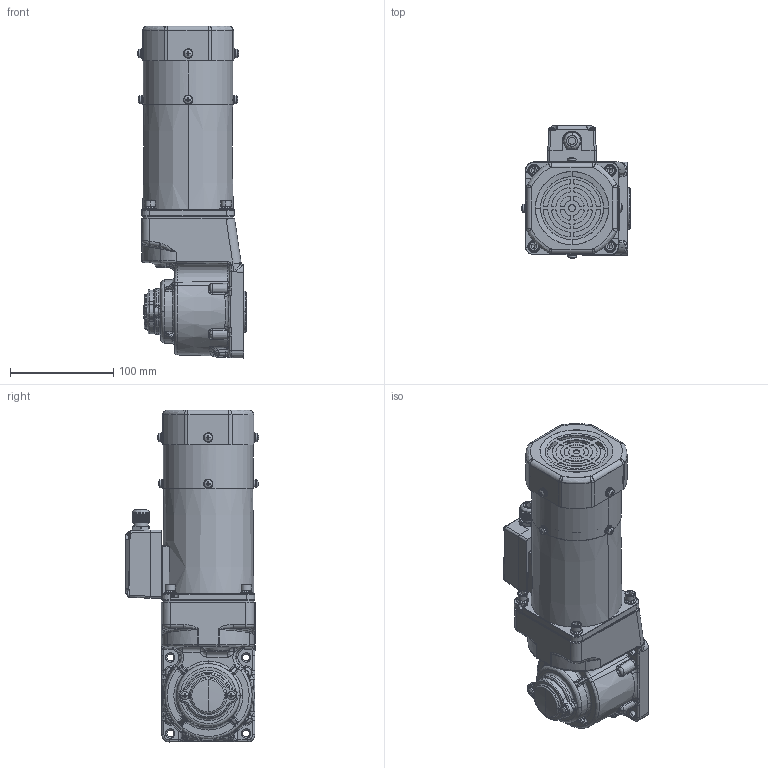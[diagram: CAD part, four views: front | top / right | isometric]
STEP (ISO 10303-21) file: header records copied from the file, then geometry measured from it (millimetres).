
FILE_DESCRIPTION (( 'STEP AP203' ), '1' );
FILE_NAME ('5RK120GU-CMFT(5GU3RC-180RC)ÐÂ.STEP', '2023-08-18T06:17:29', ( 'Windows User' ), ( 'P R C' ), 'SwSTEP 2.0', 'SolidWorks 2019', '' );
FILE_SCHEMA (( 'CONFIG_CONTROL_DESIGN' ));
Length unit declared in the file: millimetre
Products named in the file (9): hexagon socket head cap screws gb_GB_FASTENER_SCREWS_HSHCS M5X12-N^5RK120GU-CMFT(5GU3RC-180RC)ÐÂ(2)_5RK120GU-CMFT(5GU3RC-180RC)ÐÂ; 5RK120GU-CMFT(5GU3RC-180RC)陔(2)^5RK120GU-CMFT(5GU3RC-180RC)陔; ZD-5GU50RC-505-003______1^5RK120GU-CMFT(5GU3RC-180RC)ÐÂ(2)_5RK120GU-CMFT(5GU3RC-180RC)ÐÂ; 90__________-0^5RK120GU-CMFT(5GU3RC-180RC)陔(2)_5RK120GU-CMFT(5GU3RC-180RC)陔; 90RT____________^5RK120GU-CMFT(5GU3RC-180RC)ÐÂ(2)_5RK120GU-CMFT(5GU3RC-180RC)ÐÂ; 90__________^5RK120GU-CMFT(5GU3RC-180RC)陔(2)_5RK120GU-CMFT(5GU3RC-180RC)陔; cross recessed pan head screws gb_GB_CROSS_SCREWS_TYPE1 M4X6-6  H type-N^5RK120GU-CMFT(5GU3RC-180RC)ÐÂ(2)_5RK120GU-CMFT(5GU3RC-180RC)ÐÂ; 5RK120GU-CMFT(5GU3RC-180RC)陔; 5RK90GU-CMFT(5GU3RT-180RT)^5RK120GU-CMFT(5GU3RC-180RC)ÐÂ(2)_5RK120GU-CMFT(5GU3RC-180RC)ÐÂ
Assembly tree (12 placements, depth 3):
  5RK120GU-CMFT(5GU3RC-180RC)陔
    5RK120GU-CMFT(5GU3RC-180RC)陔(2)^5RK120GU-CMFT(5GU3RC-180RC)陔
      90__________^5RK120GU-CMFT(5GU3RC-180RC)陔(2)_5RK120GU-CMFT(5GU3RC-180RC)陔
      90RT____________^5RK120GU-CMFT(5GU3RC-180RC)ÐÂ(2)_5RK120GU-CMFT(5GU3RC-180RC)ÐÂ
      90__________-0^5RK120GU-CMFT(5GU3RC-180RC)陔(2)_5RK120GU-CMFT(5GU3RC-180RC)陔
      hexagon socket head cap screws gb_GB_FASTENER_SCREWS_HSHCS M5X12-N^5RK120GU-CMFT(5GU3RC-180RC)ÐÂ(2)_5RK120GU-CMFT(5GU3RC-180RC)ÐÂ  x4
      ZD-5GU50RC-505-003______1^5RK120GU-CMFT(5GU3RC-180RC)ÐÂ(2)_5RK120GU-CMFT(5GU3RC-180RC)ÐÂ
      cross recessed pan head screws gb_GB_CROSS_SCREWS_TYPE1 M4X6-6  H type-N^5RK120GU-CMFT(5GU3RC-180RC)ÐÂ(2)_5RK120GU-CMFT(5GU3RC-180RC)ÐÂ  x2
      5RK90GU-CMFT(5GU3RT-180RT)^5RK120GU-CMFT(5GU3RC-180RC)ÐÂ(2)_5RK120GU-CMFT(5GU3RC-180RC)ÐÂ
Bounding box: 105.81 x 129.3 x 321.54 mm (x, y, z)
Volume: 1683351.9 mm3; surface area: 266873.3 mm2
Topology: 58 solids, 58 shells, 3141 faces, 7879 edges, 4782 vertices
Faces by surface type: cylinder 892, plane 867, cone 709, bspline 583, torus 84, sphere 6
Entity records: 125711 total; most frequent: CARTESIAN_POINT 56764, ORIENTED_EDGE 14992, DIRECTION 13335, EDGE_CURVE 7496, AXIS2_PLACEMENT_3D 5304, VERTEX_POINT 4639, EDGE_LOOP 3223, FACE_OUTER_BOUND 3041
